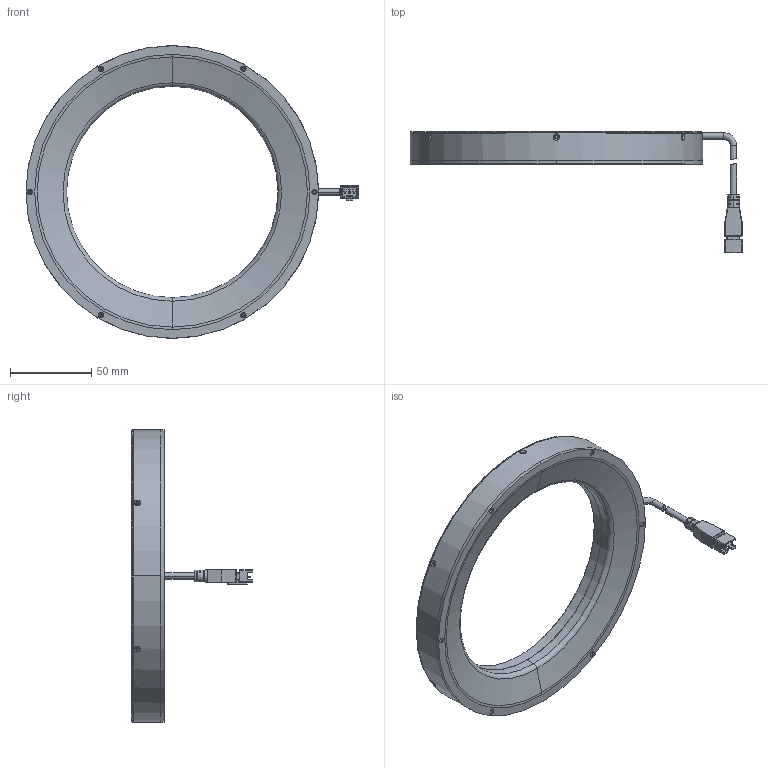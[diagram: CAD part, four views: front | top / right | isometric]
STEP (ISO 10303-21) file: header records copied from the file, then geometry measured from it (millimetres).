
FILE_DESCRIPTION (( 'STEP AP203' ), '1' );
FILE_NAME ('CRT-RL18075-¼òÒ×3DÍ¼.STEP', '2021-12-22T00:59:24', ( 'Admin' ), ( '' ), 'SwSTEP 2.0', 'SolidWorks 2018', '' );
FILE_SCHEMA (( 'CONFIG_CONTROL_DESIGN' ));
Length unit declared in the file: millimetre
Products named in the file (1): CRT-RL18075-潠眢3D芞
Bounding box: 204.25 x 74.45 x 180 mm (x, y, z)
Surface area: 56723.2 mm2 (no closed solid volume)
Topology: 0 solids, 5 shells, 262 faces, 817 edges, 535 vertices
Faces by surface type: plane 107, cylinder 90, cone 38, bspline 23, torus 4
Entity records: 10502 total; most frequent: CARTESIAN_POINT 3368, DIRECTION 1462, ORIENTED_EDGE 1369, EDGE_CURVE 805, VERTEX_POINT 535, AXIS2_PLACEMENT_3D 512, VECTOR 438, LINE 438
